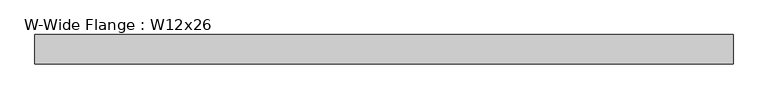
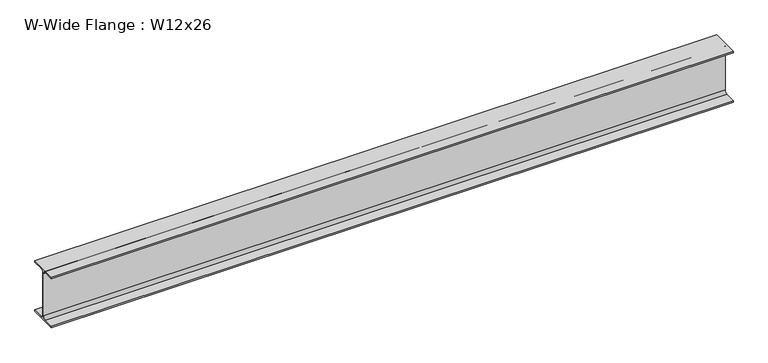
"""IFC4 building model written with IfcOpenShell, lengths in millimetres: beam geometry, W-Wide Flange : W12x26."""

from ifc_helpers import new_model, si_unit, point, frame, frame_2d, origin, place, context, project, spatial, polyline, circle_curve, trimmed, segment, composite_curve, outline, extrude, source, transform, mapped, element, save


def w_wide_flange_w12x26_e485c43d(model_context):
    return source(origin(), model_context, "Body", "SweptSolid", [
        extrude(outline(composite_curve([segment(polyline([(82.423, -145.288), (82.423, -154.94), (-82.423, -154.94), (-82.423, -145.288), (-20.2565, -145.288)]), True, "CONTINUOUS"), segment(trimmed(circle_curve(frame_2d((-20.2565, -127.9525)), 17.3355), [point((-20.2565, -145.288))], [point((-2.921, -127.9525))], True, "CARTESIAN"), True, "CONTINUOUS"), segment(polyline([(-2.921, -127.9525), (-2.921, 127.9525)]), True, "CONTINUOUS"), segment(trimmed(circle_curve(frame_2d((-20.2565, 127.9525)), 17.3355), [point((-2.921, 127.9525))], [point((-20.2565, 145.288))], True, "CARTESIAN"), True, "CONTINUOUS"), segment(polyline([(-20.2565, 145.288), (-82.423, 145.288), (-82.423, 154.94), (82.423, 154.94), (82.423, 145.288), (20.2565, 145.288)]), True, "CONTINUOUS"), segment(trimmed(circle_curve(frame_2d((20.2565, 127.9525)), 17.3355), [point((20.2565, 145.288))], [point((2.921, 127.9525))], True, "CARTESIAN"), True, "CONTINUOUS"), segment(polyline([(2.921, 127.9525), (2.921, -127.9525)]), True, "CONTINUOUS"), segment(trimmed(circle_curve(frame_2d((20.2565, -127.9525)), 17.3355), [point((2.921, -127.9525))], [point((20.2565, -145.288))], True, "CARTESIAN"), True, "CONTINUOUS"), segment(polyline([(20.2565, -145.288), (82.423, -145.288)]), True, "CONTINUOUS")], self_intersect=False)), frame((-1917.7, 0.0, 0.0), z_axis=(1.0, 0.0, 0.0), x_axis=(0.0, 1.0, 0.0)), (0.0, 0.0, 1.0), 3930.65),
    ])


if __name__ == "__main__":
    model = new_model("IFC4")
    model_context = context("Model", 3, world=origin())
    ifc_project = project(units=[si_unit("LENGTHUNIT", "METRE", prefix="MILLI")], contexts=[model_context])
    site = spatial("IfcSite", under=ifc_project)
    building = spatial("IfcBuilding", under=site)
    placement = place(None, origin())
    w_wide_flange_w12x26_shape = w_wide_flange_w12x26_e485c43d(model_context)
    element("IfcBeam", 1, ObjectType="W-Wide Flange : W12x26", at=placement, inside=building, context=model_context, shape_type="MappedRepresentation", body=[
        mapped(w_wide_flange_w12x26_shape, transform((0.0, 0.0, 0.0), x_axis=(1.0, 0.0, 0.0), y_axis=(0.0, 1.0, 0.0), z_axis=(0.0, 0.0, 1.0))),
    ])
    save(model, "model.ifc")
